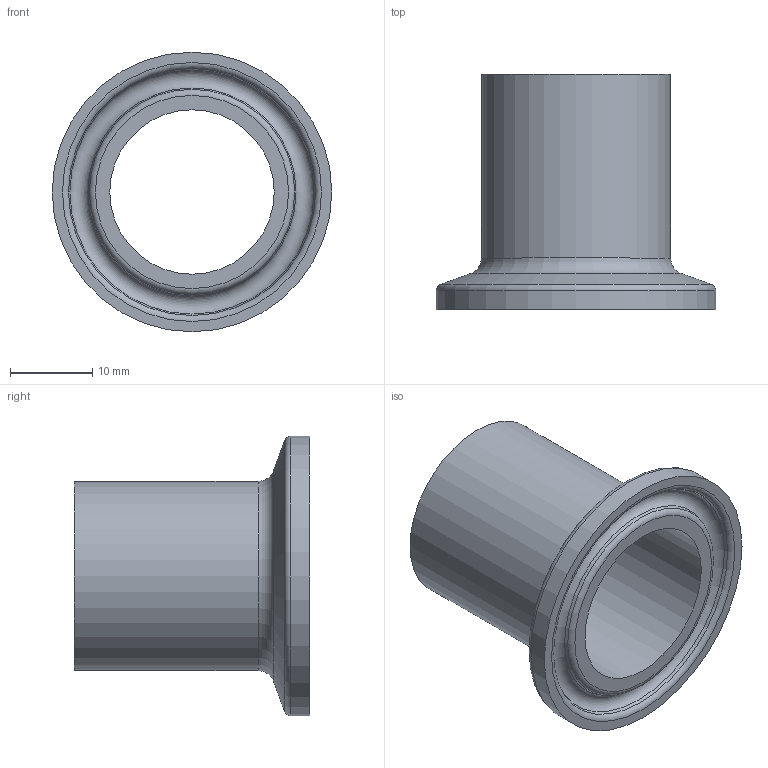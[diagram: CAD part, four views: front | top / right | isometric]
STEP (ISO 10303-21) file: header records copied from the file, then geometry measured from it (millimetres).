
FILE_DESCRIPTION(('Ferrule_23x1,5_L28,6_FL34_V12'),'2;1');
FILE_NAME('Ferrule_23x1,5_L28,6_FL34_V12.stp','2013-11-03T13:43:37',('DOCKWEILER AG'),('DOCKWEILER AG'),'Autodesk Inventor 2012','Autodesk Inventor 2012','');
FILE_SCHEMA(('CONFIG_CONTROL_DESIGN'));
Length unit declared in the file: millimetre
Products named in the file (1): N0003_003_001
Bounding box: 34 x 28.6 x 34 mm (x, y, z)
Volume: 4479.9 mm3; surface area: 5126.1 mm2
Topology: 1 solids, 1 shells, 14 faces, 25 edges, 14 vertices
Faces by surface type: torus 5, plane 3, cylinder 3, cone 3
Full cylindrical faces by diameter (mm): 20 x1, 23 x1, 34 x1
Entity records: 314 total; most frequent: DIRECTION 58, CARTESIAN_POINT 43, AXIS2_PLACEMENT_3D 29, ORIENTED_EDGE 28, EDGE_LOOP 28, VERTEX_POINT 14, CIRCLE 14, EDGE_CURVE 14
